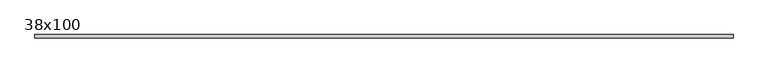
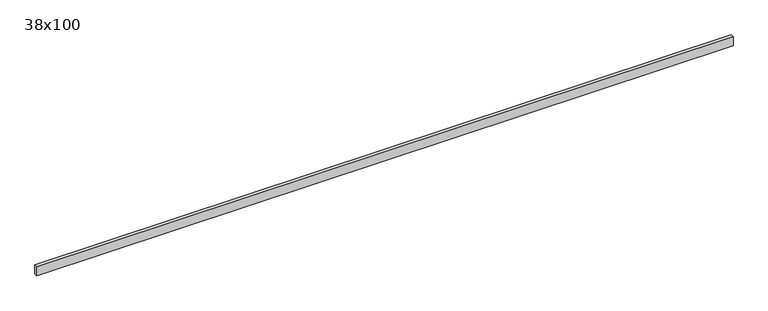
"""IFC4 building model written with IfcOpenShell, lengths in millimetres: beam geometry, Poutre - Bois de construction de dimensions courantes : 38x100."""

import ifcopenshell
import ifcopenshell.guid

model = None  # the IFC model being written
_history = None  # IfcOwnerHistory: only IFC2X3 demands one
_inside = {}  # id of a spatial element -> (the spatial element, [elements in it])
_under = {}  # id of a project, library or spatial element -> (it, [spatial elements below it])
_declared = {}  # id of a project -> (the project, [libraries it declares])
_typed = {}  # id of a type object -> (the type object, [elements of that type])
_made_of = {}  # id of a material, layer set ... -> (it, [elements and type objects made of it])


def new_model(schema):
    """Start an empty IFC model of exactly this schema.

    Asked for "IFC4X3", IfcOpenShell would pick the latest addendum, in which some entities
    have other attributes; the version numbers below select the first issue.
    IFC2X3 requires an IfcOwnerHistory on every rooted entity: one is made here for all.
    """
    global model, _history
    if schema == "IFC4X3":
        model = ifcopenshell.file(schema_version=(4, 3, 0, 0))
    else:
        model = ifcopenshell.file(schema=schema)
    _inside.clear()
    _under.clear()
    _declared.clear()
    _typed.clear()
    _made_of.clear()
    _history = None
    if model.schema == "IFC2X3":
        org = make("IfcOrganization", Name="unknown")
        user = make(
            "IfcPersonAndOrganization",
            ThePerson=make("IfcPerson", FamilyName="unknown"),
            TheOrganization=org,
        )
        app = make(
            "IfcApplication",
            ApplicationDeveloper=org,
            Version="unknown",
            ApplicationFullName="unknown",
            ApplicationIdentifier="unknown",
        )
        _history = make(
            "IfcOwnerHistory",
            OwningUser=user,
            OwningApplication=app,
            ChangeAction="ADDED",
            CreationDate=0,
        )
    return model


def make(cls, **values):
    """One entity of the class cls with the attributes given. An attribute that is None is left unset."""
    return model.create_entity(
        cls, **{name: value for name, value in values.items() if value is not None}
    )


def rooted(cls, **values):
    """An entity with a GlobalId (a new one), such as an element, a storey or a relation."""
    return make(cls, GlobalId=ifcopenshell.guid.new(), OwnerHistory=_history, **values)


def si_unit(unit_type, name, prefix=None):
    """IfcSIUnit, for example si_unit("LENGTHUNIT", "METRE", prefix="MILLI")."""
    return make("IfcSIUnit", UnitType=unit_type, Prefix=prefix, Name=name)


def assignment(units):
    """IfcUnitAssignment: the units of a project."""
    return None if units is None else make("IfcUnitAssignment", Units=units)


def point(xyz):
    """IfcCartesianPoint."""
    return None if xyz is None else make("IfcCartesianPoint", Coordinates=xyz)


def direction(xyz):
    """IfcDirection."""
    return None if xyz is None else make("IfcDirection", DirectionRatios=xyz)


def frame(location, z_axis=None, x_axis=None):
    """IfcAxis2Placement3D, a coordinate frame: its origin and axes. An axis left out is left unset."""
    return make(
        "IfcAxis2Placement3D",
        Location=point(location),
        Axis=direction(z_axis),
        RefDirection=direction(x_axis),
    )


def origin():
    """The frame at (0, 0, 0) with its axes left unset."""
    return frame((0.0, 0.0, 0.0))


def place(relative_to, where):
    """IfcLocalPlacement: puts the frame where relative to a parent placement (None: the world)."""
    return make(
        "IfcLocalPlacement", PlacementRelTo=relative_to, RelativePlacement=where
    )


def context(
    kind, dimensions, precision=None, world=None, true_north=None, identifier=None
):
    """IfcGeometricRepresentationContext, for example the 3D "Model" context."""
    return make(
        "IfcGeometricRepresentationContext",
        ContextIdentifier=identifier,
        ContextType=kind,
        CoordinateSpaceDimension=dimensions,
        Precision=precision,
        WorldCoordinateSystem=world,
        TrueNorth=true_north,
    )


def project(units=None, contexts=None):
    """IfcProject with its units and contexts."""
    return rooted(
        "IfcProject",
        Name="project",
        RepresentationContexts=contexts,
        UnitsInContext=assignment(units),
    )


def spatial(cls, under=None, at=None, **own):
    """A site, building, storey or space (cls), placed at a placement, below another one or the project."""
    s = rooted(cls, ObjectPlacement=at, **own)
    if under is not None:
        _under.setdefault(under.id(), (under, []))[1].append(s)
    return s


def polyline(points):
    """IfcPolyline through the points."""
    return make("IfcPolyline", Points=[point(p) for p in points])


def outline(outer, holes=None, kind="AREA"):
    """IfcArbitraryClosedProfileDef: a profile drawn as a closed curve; with holes, ...WithVoids."""
    if holes is None:
        return make("IfcArbitraryClosedProfileDef", ProfileType=kind, OuterCurve=outer)
    return make(
        "IfcArbitraryProfileDefWithVoids",
        ProfileType=kind,
        OuterCurve=outer,
        InnerCurves=holes,
    )


def extrude(swept, where, along, depth):
    """IfcExtrudedAreaSolid: the profile swept, set in the frame where, extruded along a direction by depth."""
    return make(
        "IfcExtrudedAreaSolid",
        SweptArea=swept,
        Position=where,
        ExtrudedDirection=direction(along),
        Depth=depth,
    )


def shape(context_of_items, identifier, shape_type, items):
    """IfcShapeRepresentation: the items that make up one representation, for example the "Body"."""
    return make(
        "IfcShapeRepresentation",
        ContextOfItems=context_of_items,
        RepresentationIdentifier=identifier,
        RepresentationType=shape_type,
        Items=items,
    )


def source(mapping_origin, context_of_items, identifier, shape_type, items):
    """IfcRepresentationMap: a shape defined once, which mapped items show again and again."""
    return make(
        "IfcRepresentationMap",
        MappingOrigin=mapping_origin,
        MappedRepresentation=shape(context_of_items, identifier, shape_type, items),
    )


def transform(
    local_origin,
    x_axis=None,
    y_axis=None,
    z_axis=None,
    scale=None,
    scale2=None,
    scale3=None,
    uniform=True,
):
    """IfcCartesianTransformationOperator3D, or its non-uniform kind. x_axis, y_axis, z_axis: its Axis1, 2, 3."""
    if uniform:
        return make(
            "IfcCartesianTransformationOperator3D",
            Axis1=direction(x_axis),
            Axis2=direction(y_axis),
            LocalOrigin=point(local_origin),
            Scale=scale,
            Axis3=direction(z_axis),
        )
    return make(
        "IfcCartesianTransformationOperator3DnonUniform",
        Axis1=direction(x_axis),
        Axis2=direction(y_axis),
        LocalOrigin=point(local_origin),
        Scale=scale,
        Axis3=direction(z_axis),
        Scale2=scale2,
        Scale3=scale3,
    )


def mapped(mapping_source, mapping_target):
    """IfcMappedItem: shows the shape of a source again, moved by a transform."""
    return make(
        "IfcMappedItem", MappingSource=mapping_source, MappingTarget=mapping_target
    )


def made_of(thing, what):
    """Note that an element or type object is made of a material, layer set ...; save() writes the relation."""
    if what is not None:
        _made_of.setdefault(what.id(), (what, []))[1].append(thing)
    return thing


def element(
    cls,
    number,
    at=None,
    inside=None,
    cuts=None,
    type_object=None,
    material=None,
    context=None,
    identifier="Body",
    shape_type=None,
    held_by="IfcProductDefinitionShape",
    body=None,
    shapes=None,
    **own,
):
    """One element of the class cls, such as IfcWall. Its Tag is "e" and its number.

    at: its placement. inside: the storey or other place that contains it. cuts: it is an
    opening in that element (IfcRelVoidsElement). A single representation is given by context,
    identifier, shape_type and body (its items); several are given by shapes. held_by: the class
    of the entity that holds the representations. save() writes the other relations.
    """
    e = rooted(cls, Tag="e%d" % number, ObjectPlacement=at, **own)
    if body is not None:
        shapes = [shape(context, identifier, shape_type, body)]
    if shapes is not None:
        e.Representation = make(held_by, Representations=shapes)
    if inside is not None:
        _inside.setdefault(inside.id(), (inside, []))[1].append(e)
    if cuts is not None:
        rooted(
            "IfcRelVoidsElement", RelatingBuildingElement=cuts, RelatedOpeningElement=e
        )
    if type_object is not None:
        _typed.setdefault(type_object.id(), (type_object, []))[1].append(e)
    return made_of(e, material)


def aggregate(whole, parts):
    """IfcRelAggregates: a whole, such as a stair, and the parts it consists of."""
    return rooted("IfcRelAggregates", RelatingObject=whole, RelatedObjects=parts)


def save(model, path):
    """Write the relations noted so far, then the file.

    IfcRelAggregates (storeys below a building ...), IfcRelContainedInSpatialStructure (elements
    in a storey), IfcRelDefinesByType, IfcRelAssociatesMaterial and IfcRelDeclares: one each for
    every whole, place, type object, material and project.
    """
    for whole, parts in _under.values():
        aggregate(whole, parts)
    for where, things in _inside.values():
        rooted(
            "IfcRelContainedInSpatialStructure",
            RelatedElements=things,
            RelatingStructure=where,
        )
    for kind, things in _typed.values():
        rooted("IfcRelDefinesByType", RelatedObjects=things, RelatingType=kind)
    for what, things in _made_of.values():
        rooted("IfcRelAssociatesMaterial", RelatedObjects=things, RelatingMaterial=what)
    for by, libraries in _declared.values():
        rooted("IfcRelDeclares", RelatingContext=by, RelatedDefinitions=libraries)
    model.write(path)


def beam_38x100_afd38e0d(model_context):
    return source(origin(), model_context, "Body", "SweptSolid", [
        extrude(outline(polyline([(3773.0, 19.05), (3773.0, -19.05), (-3773.0, -19.05), (-3773.0, 19.05), (3773.0, 19.05)])), frame((0.0, 0.0, -50.0), z_axis=(0.0, 0.0, 1.0), x_axis=(1.0, 0.0, 0.0)), (0.0, 0.0, 1.0), 100.0),
    ])


if __name__ == "__main__":
    model = new_model("IFC4")
    model_context = context("Model", 3, world=origin())
    ifc_project = project(units=[si_unit("LENGTHUNIT", "METRE", prefix="MILLI")], contexts=[model_context])
    site = spatial("IfcSite", under=ifc_project)
    building = spatial("IfcBuilding", under=site)
    placement = place(None, origin())
    beam_38x100_shape = beam_38x100_afd38e0d(model_context)
    element("IfcBeam", 1, ObjectType="Poutre - Bois de construction de dimensions courantes : 38x100", at=placement, inside=building, context=model_context, shape_type="MappedRepresentation", body=[
        mapped(beam_38x100_shape, transform((0.0, 0.0, 0.0), x_axis=(1.0, 0.0, 0.0), y_axis=(0.0, 1.0, 0.0), z_axis=(0.0, 0.0, 1.0))),
    ])
    save(model, "model.ifc")
